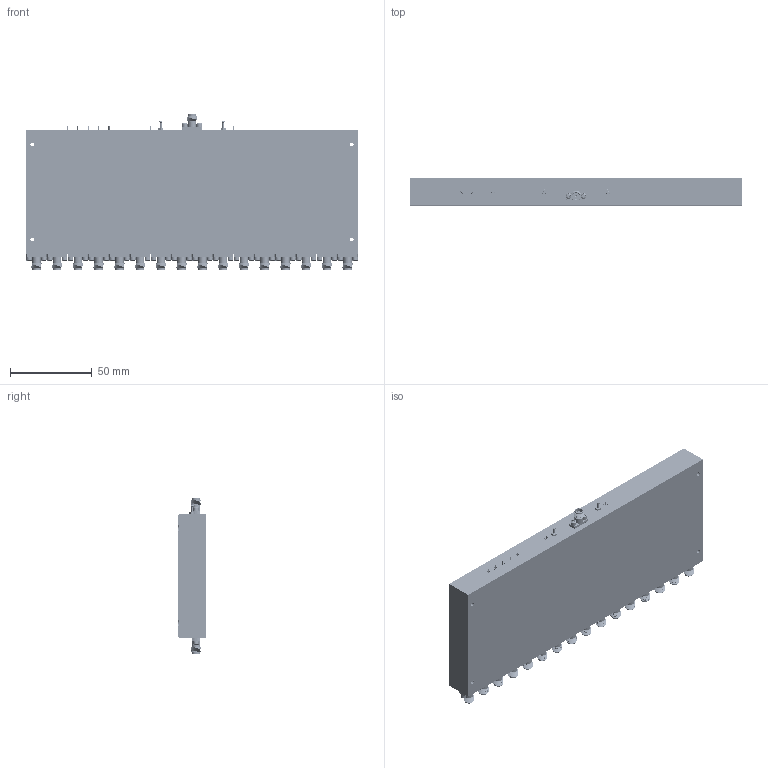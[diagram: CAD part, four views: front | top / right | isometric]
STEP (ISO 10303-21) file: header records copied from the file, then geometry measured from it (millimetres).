
FILE_DESCRIPTION (( 'STEP AP214' ), '1' );
FILE_NAME ('P16T-250M18G-80-T-515-SFF-DEC-1W-DB.STEP', '2026-08-27T20:40:56', ( '' ), ( '' ), 'SwSTEP 2.0', 'SolidWorks 2025', '' );
FILE_SCHEMA (( 'AUTOMOTIVE_DESIGN' ));
Length unit declared in the file: inch
Products named in the file (1): P16T-250M18G-80-T-515-SFF-DEC-1W-DB
Bounding box: 203.2 x 16.54 x 95.25 mm (x, y, z)
Volume: 260258.5 mm3; surface area: 83187.4 mm2
Topology: 132 solids, 132 shells, 3197 faces, 8402 edges, 5791 vertices
Faces by surface type: plane 1492, cylinder 722, torus 453, cone 254, sphere 218, bspline 58
Full cylindrical faces by diameter (mm): 0.305 x17, 0.559 x17, 0.635 x14, 1.016 x17, 1.067 x2, 1.27 x17, 1.854 x36, 1.93 x9, 1.956 x7, 1.981 x17, 2.184 x72, 2.261 x4, 2.489 x17, 2.591 x34, 2.845 x4, 2.896 x7, 3.302 x17, 3.556 x34, 4.191 x34, 4.597 x17, 5.283 x34
Entity records: 153674 total; most frequent: CARTESIAN_POINT 38415, DIRECTION 15454, ORIENTED_EDGE 14378, EDGE_CURVE 7189, AXIS2_PLACEMENT_3D 6275, VERTEX_POINT 5644, EDGE_LOOP 4661, FACE_OUTER_BOUND 4031
